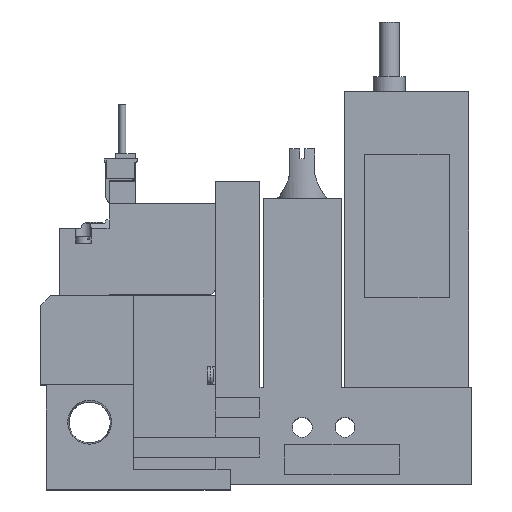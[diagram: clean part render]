
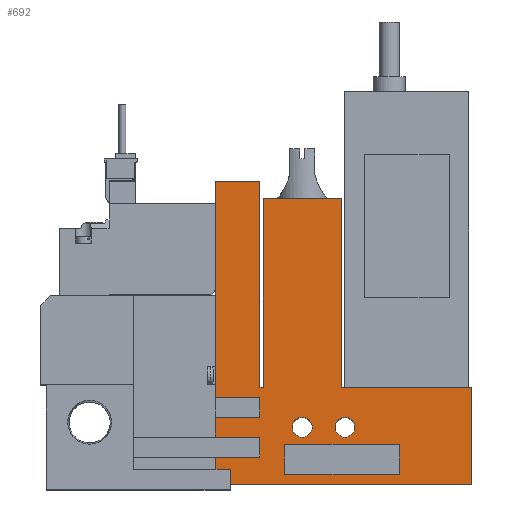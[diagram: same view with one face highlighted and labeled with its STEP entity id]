
A CAD part, top view. The second image highlights one B-rep face of the part: STEP entity #692.
In plain terms, the highlighted planar face has unit normal (0, 0, 1).
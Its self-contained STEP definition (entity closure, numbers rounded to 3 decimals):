
#692=ADVANCED_FACE('',(#1451,#1452,#1453,#1454),#1455,.T.);
#1451=FACE_OUTER_BOUND('',#2404,.T.);
#1452=FACE_BOUND('',#2405,.T.);
#1453=FACE_BOUND('',#2406,.T.);
#1454=FACE_BOUND('',#2407,.T.);
#1455=PLANE('',#2408);
#2404=EDGE_LOOP('',(#5082,#5083,#5084,#5085,#5086,#5087,#5088,#5089,#5090,#5091,#5092,#5093,#5094,#5095,#5096,#5097,#5098,#5099));
#2405=EDGE_LOOP('',(#5100,#5101,#5102,#5103));
#2406=EDGE_LOOP('',(#5104));
#2407=EDGE_LOOP('',(#5105));
#2408=AXIS2_PLACEMENT_3D('',#5106,#5107,#5108);
#5082=ORIENTED_EDGE('',*,*,#6742,.T.);
#5083=ORIENTED_EDGE('',*,*,#6778,.T.);
#5084=ORIENTED_EDGE('',*,*,#6691,.T.);
#5085=ORIENTED_EDGE('',*,*,#6779,.T.);
#5086=ORIENTED_EDGE('',*,*,#6694,.T.);
#5087=ORIENTED_EDGE('',*,*,#6780,.T.);
#5088=ORIENTED_EDGE('',*,*,#6774,.T.);
#5089=ORIENTED_EDGE('',*,*,#6781,.T.);
#5090=ORIENTED_EDGE('',*,*,#6782,.T.);
#5091=ORIENTED_EDGE('',*,*,#6783,.T.);
#5092=ORIENTED_EDGE('',*,*,#6784,.T.);
#5093=ORIENTED_EDGE('',*,*,#6726,.T.);
#5094=ORIENTED_EDGE('',*,*,#6785,.T.);
#5095=ORIENTED_EDGE('',*,*,#6786,.T.);
#5096=ORIENTED_EDGE('',*,*,#6706,.T.);
#5097=ORIENTED_EDGE('',*,*,#6787,.T.);
#5098=ORIENTED_EDGE('',*,*,#6788,.T.);
#5099=ORIENTED_EDGE('',*,*,#6716,.T.);
#5100=ORIENTED_EDGE('',*,*,#6789,.T.);
#5101=ORIENTED_EDGE('',*,*,#6790,.T.);
#5102=ORIENTED_EDGE('',*,*,#6791,.T.);
#5103=ORIENTED_EDGE('',*,*,#6792,.T.);
#5104=ORIENTED_EDGE('',*,*,#6793,.T.);
#5105=ORIENTED_EDGE('',*,*,#6794,.T.);
#5106=CARTESIAN_POINT('',(0.0,0.0,10.0));
#5107=DIRECTION('',(0.0,0.0,1.0));
#5108=DIRECTION('',(1.0,0.0,0.0));
#6691=EDGE_CURVE('',#8187,#8192,#8194,.T.);
#6694=EDGE_CURVE('',#8199,#8197,#8200,.T.);
#6706=EDGE_CURVE('',#8219,#8217,#8220,.T.);
#6716=EDGE_CURVE('',#8237,#8235,#8238,.T.);
#6726=EDGE_CURVE('',#8256,#8254,#8257,.T.);
#6742=EDGE_CURVE('',#8235,#8284,#8286,.T.);
#6774=EDGE_CURVE('',#8338,#8340,#8342,.T.);
#6778=EDGE_CURVE('',#8284,#8187,#8348,.T.);
#6779=EDGE_CURVE('',#8192,#8199,#8349,.T.);
#6780=EDGE_CURVE('',#8197,#8338,#8350,.T.);
#6781=EDGE_CURVE('',#8340,#8351,#8352,.T.);
#6782=EDGE_CURVE('',#8351,#8353,#8354,.T.);
#6783=EDGE_CURVE('',#8353,#8355,#8356,.T.);
#6784=EDGE_CURVE('',#8355,#8256,#8357,.T.);
#6785=EDGE_CURVE('',#8254,#8358,#8359,.T.);
#6786=EDGE_CURVE('',#8358,#8219,#8360,.T.);
#6787=EDGE_CURVE('',#8217,#8361,#8362,.T.);
#6788=EDGE_CURVE('',#8361,#8237,#8363,.T.);
#6789=EDGE_CURVE('',#8364,#8365,#8366,.T.);
#6790=EDGE_CURVE('',#8365,#8367,#8368,.T.);
#6791=EDGE_CURVE('',#8367,#8369,#8370,.T.);
#6792=EDGE_CURVE('',#8369,#8364,#8371,.T.);
#6793=EDGE_CURVE('',#8372,#8372,#8373,.T.);
#6794=EDGE_CURVE('',#8374,#8374,#8375,.T.);
#8187=VERTEX_POINT('',#10582);
#8192=VERTEX_POINT('',#10589);
#8194=LINE('',#10592,#10593);
#8197=VERTEX_POINT('',#10597);
#8199=VERTEX_POINT('',#10600);
#8200=LINE('',#10601,#10602);
#8217=VERTEX_POINT('',#10629);
#8219=VERTEX_POINT('',#10632);
#8220=LINE('',#10633,#10634);
#8235=VERTEX_POINT('',#10657);
#8237=VERTEX_POINT('',#10660);
#8238=LINE('',#10661,#10662);
#8254=VERTEX_POINT('',#10686);
#8256=VERTEX_POINT('',#10689);
#8257=LINE('',#10690,#10691);
#8284=VERTEX_POINT('',#10732);
#8286=LINE('',#10735,#10736);
#8338=VERTEX_POINT('',#10812);
#8340=VERTEX_POINT('',#10815);
#8342=LINE('',#10818,#10819);
#8348=LINE('',#10828,#10829);
#8349=LINE('',#10830,#10831);
#8350=LINE('',#10832,#10833);
#8351=VERTEX_POINT('',#10834);
#8352=LINE('',#10835,#10836);
#8353=VERTEX_POINT('',#10837);
#8354=LINE('',#10838,#10839);
#8355=VERTEX_POINT('',#10840);
#8356=LINE('',#10841,#10842);
#8357=LINE('',#10843,#10844);
#8358=VERTEX_POINT('',#10845);
#8359=LINE('',#10846,#10847);
#8360=LINE('',#10848,#10849);
#8361=VERTEX_POINT('',#10850);
#8362=LINE('',#10851,#10852);
#8363=LINE('',#10853,#10854);
#8364=VERTEX_POINT('',#10855);
#8365=VERTEX_POINT('',#10856);
#8366=LINE('',#10857,#10858);
#8367=VERTEX_POINT('',#10859);
#8368=LINE('',#10860,#10861);
#8369=VERTEX_POINT('',#10862);
#8370=LINE('',#10863,#10864);
#8371=LINE('',#10865,#10866);
#8372=VERTEX_POINT('',#10867);
#8373=CIRCLE('',#10868,2.0);
#8374=VERTEX_POINT('',#10869);
#8375=CIRCLE('',#10870,2.0);
#10582=CARTESIAN_POINT('',(44.1,17.5,10.0));
#10589=CARTESIAN_POINT('',(44.1,13.5,10.0));
#10592=CARTESIAN_POINT('',(44.1,0.0,10.0));
#10593=VECTOR('',#12375,1.0);
#10597=CARTESIAN_POINT('',(35.1,9.5,10.0));
#10600=CARTESIAN_POINT('',(35.1,13.5,10.0));
#10601=CARTESIAN_POINT('',(35.1,0.0,10.0));
#10602=VECTOR('',#12378,1.0);
#10629=CARTESIAN_POINT('',(44.75,19.5,10.0));
#10632=CARTESIAN_POINT('',(44.75,57.5,10.0));
#10633=CARTESIAN_POINT('',(44.75,57.5,10.0));
#10634=VECTOR('',#12390,1.0);
#10657=CARTESIAN_POINT('',(35.1,61.0,10.0));
#10660=CARTESIAN_POINT('',(44.1,61.0,10.0));
#10661=CARTESIAN_POINT('',(44.1,61.0,10.0));
#10662=VECTOR('',#12400,1.0);
#10686=CARTESIAN_POINT('',(60.45,19.5,10.0));
#10689=CARTESIAN_POINT('',(86.6,19.5,10.0));
#10690=CARTESIAN_POINT('',(86.6,19.5,10.0));
#10691=VECTOR('',#12410,1.0);
#10732=CARTESIAN_POINT('',(35.1,17.5,10.0));
#10735=CARTESIAN_POINT('',(35.1,61.0,10.0));
#10736=VECTOR('',#12426,1.0);
#10812=CARTESIAN_POINT('',(44.1,9.5,10.0));
#10815=CARTESIAN_POINT('',(44.1,5.5,10.0));
#10818=CARTESIAN_POINT('',(44.1,0.0,10.0));
#10819=VECTOR('',#12465,1.0);
#10828=CARTESIAN_POINT('',(0.0,17.5,10.0));
#10829=VECTOR('',#12469,1.0);
#10830=CARTESIAN_POINT('',(0.0,13.5,10.0));
#10831=VECTOR('',#12470,1.0);
#10832=CARTESIAN_POINT('',(0.0,9.5,10.0));
#10833=VECTOR('',#12471,1.0);
#10834=CARTESIAN_POINT('',(35.1,5.5,10.0));
#10835=CARTESIAN_POINT('',(0.0,5.5,10.0));
#10836=VECTOR('',#12472,1.0);
#10837=CARTESIAN_POINT('',(35.1,0.0,10.0));
#10838=CARTESIAN_POINT('',(35.1,0.0,10.0));
#10839=VECTOR('',#12473,1.0);
#10840=CARTESIAN_POINT('',(86.6,0.0,10.0));
#10841=CARTESIAN_POINT('',(18.6,0.0,10.0));
#10842=VECTOR('',#12474,1.0);
#10843=CARTESIAN_POINT('',(86.6,0.0,10.0));
#10844=VECTOR('',#12475,1.0);
#10845=CARTESIAN_POINT('',(60.45,57.5,10.0));
#10846=CARTESIAN_POINT('',(60.45,19.5,10.0));
#10847=VECTOR('',#12476,1.0);
#10848=CARTESIAN_POINT('',(60.45,57.5,10.0));
#10849=VECTOR('',#12477,1.0);
#10850=CARTESIAN_POINT('',(44.1,19.5,10.0));
#10851=CARTESIAN_POINT('',(44.75,19.5,10.0));
#10852=VECTOR('',#12478,1.0);
#10853=CARTESIAN_POINT('',(44.1,19.5,10.0));
#10854=VECTOR('',#12479,1.0);
#10855=CARTESIAN_POINT('',(49.1,2.0,10.0));
#10856=CARTESIAN_POINT('',(49.1,8.0,10.0));
#10857=CARTESIAN_POINT('',(49.1,0.0,10.0));
#10858=VECTOR('',#12480,1.0);
#10859=CARTESIAN_POINT('',(72.1,8.0,10.0));
#10860=CARTESIAN_POINT('',(0.0,8.0,10.0));
#10861=VECTOR('',#12481,1.0);
#10862=CARTESIAN_POINT('',(72.1,2.0,10.0));
#10863=CARTESIAN_POINT('',(72.1,0.0,10.0));
#10864=VECTOR('',#12482,1.0);
#10865=CARTESIAN_POINT('',(0.0,2.0,10.0));
#10866=VECTOR('',#12483,1.0);
#10867=CARTESIAN_POINT('',(54.6,11.5,10.0));
#10868=AXIS2_PLACEMENT_3D('',#12484,#12485,#12486);
#10869=CARTESIAN_POINT('',(63.2,11.5,10.0));
#10870=AXIS2_PLACEMENT_3D('',#12487,#12488,#12489);
#12375=DIRECTION('',(0.0,-1.0,0.0));
#12378=DIRECTION('',(0.0,-1.0,0.0));
#12390=DIRECTION('',(0.0,-1.0,0.0));
#12400=DIRECTION('',(-1.0,0.0,0.0));
#12410=DIRECTION('',(-1.0,0.0,0.0));
#12426=DIRECTION('',(0.0,-1.0,0.0));
#12465=DIRECTION('',(0.0,-1.0,0.0));
#12469=DIRECTION('',(1.0,0.0,0.0));
#12470=DIRECTION('',(-1.0,0.0,0.0));
#12471=DIRECTION('',(1.0,0.0,0.0));
#12472=DIRECTION('',(-1.0,0.0,0.0));
#12473=DIRECTION('',(0.0,-1.0,0.0));
#12474=DIRECTION('',(1.0,0.0,0.0));
#12475=DIRECTION('',(0.0,1.0,0.0));
#12476=DIRECTION('',(0.0,1.0,0.0));
#12477=DIRECTION('',(-1.0,0.0,0.0));
#12478=DIRECTION('',(-1.0,0.0,0.0));
#12479=DIRECTION('',(0.0,1.0,0.0));
#12480=DIRECTION('',(0.0,1.0,0.0));
#12481=DIRECTION('',(1.0,0.0,0.0));
#12482=DIRECTION('',(0.0,-1.0,0.0));
#12483=DIRECTION('',(-1.0,0.0,0.0));
#12484=CARTESIAN_POINT('',(52.6,11.5,10.0));
#12485=DIRECTION('',(0.0,0.0,-1.0));
#12486=DIRECTION('',(1.0,0.0,0.0));
#12487=CARTESIAN_POINT('',(61.2,11.5,10.0));
#12488=DIRECTION('',(0.0,0.0,-1.0));
#12489=DIRECTION('',(1.0,0.0,0.0));
